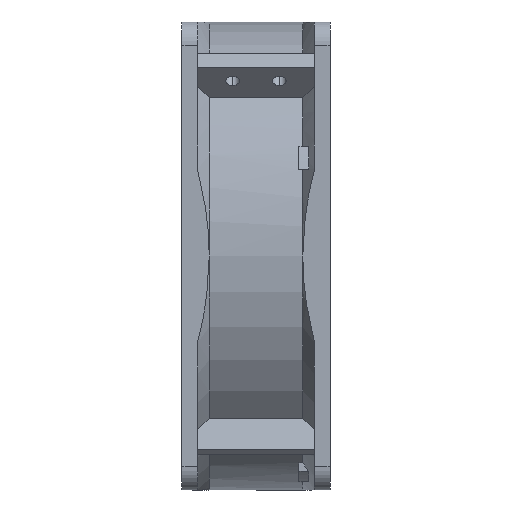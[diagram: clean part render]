
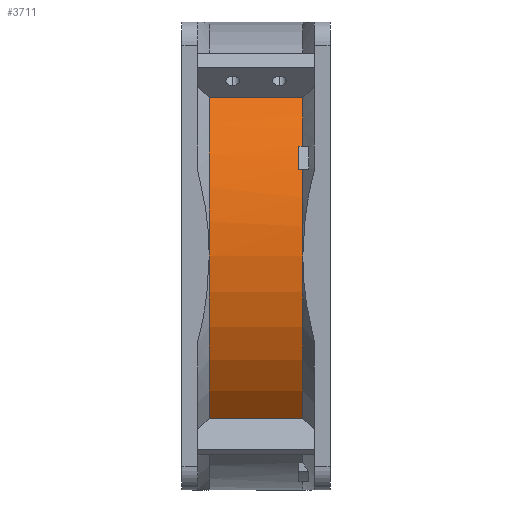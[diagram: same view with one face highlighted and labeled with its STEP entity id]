
A CAD part, left-side view. The second image highlights one B-rep face of the part: STEP entity #3711.
In plain terms, the highlighted cylindrical face has radius 60 mm (diameter 120 mm), a partial arc.
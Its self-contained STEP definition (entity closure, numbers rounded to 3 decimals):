
#95 = CARTESIAN_POINT ( 'NONE',  ( 0., 12., 0. ) ) ;
#128 = VERTEX_POINT ( 'NONE', #5200 ) ;
#167 = AXIS2_PLACEMENT_3D ( 'NONE', #545, #3971, #1053 ) ;
#169 = CARTESIAN_POINT ( 'NONE',  ( -55.738, -11.5, 22.21 ) ) ;
#350 = CIRCLE ( 'NONE', #617, 60. ) ;
#392 = VERTEX_POINT ( 'NONE', #5096 ) ;
#399 = VERTEX_POINT ( 'NONE', #4609 ) ;
#410 = EDGE_CURVE ( 'NONE', #576, #392, #5312, .T. ) ;
#429 = VERTEX_POINT ( 'NONE', #744 ) ;
#545 = CARTESIAN_POINT ( 'NONE',  ( 0., -11., 0. ) ) ;
#576 = VERTEX_POINT ( 'NONE', #3053 ) ;
#594 = DIRECTION ( 'NONE',  ( 0., 0., -1. ) ) ;
#608 = EDGE_CURVE ( 'NONE', #399, #5047, #4541, .T. ) ;
#614 = VERTEX_POINT ( 'NONE', #1661 ) ;
#617 = AXIS2_PLACEMENT_3D ( 'NONE', #852, #4260, #1339 ) ;
#672 = DIRECTION ( 'NONE',  ( 0., 1., 0. ) ) ;
#705 = AXIS2_PLACEMENT_3D ( 'NONE', #2482, #1543, #4943 ) ;
#744 = CARTESIAN_POINT ( 'NONE',  ( -60., 12., 0. ) ) ;
#852 = CARTESIAN_POINT ( 'NONE',  ( 0., -12., 0. ) ) ;
#1053 = DIRECTION ( 'NONE',  ( 0., 0., -1. ) ) ;
#1061 = ORIENTED_EDGE ( 'NONE', *, *, #3314, .F. ) ;
#1087 = ORIENTED_EDGE ( 'NONE', *, *, #3434, .F. ) ;
#1157 = AXIS2_PLACEMENT_3D ( 'NONE', #95, #3515, #594 ) ;
#1188 = CIRCLE ( 'NONE', #2172, 60. ) ;
#1233 = DIRECTION ( 'NONE',  ( 0., -1., 0. ) ) ;
#1339 = DIRECTION ( 'NONE',  ( 0., 0., -1. ) ) ;
#1345 = LINE ( 'NONE', #4957, #3781 ) ;
#1543 = DIRECTION ( 'NONE',  ( 0., -1., 0. ) ) ;
#1586 = CYLINDRICAL_SURFACE ( 'NONE', #705, 60. ) ;
#1661 = CARTESIAN_POINT ( 'NONE',  ( -53.032, -12., 28.065 ) ) ;
#1747 = FACE_OUTER_BOUND ( 'NONE', #5213, .T. ) ;
#1913 = CARTESIAN_POINT ( 'NONE',  ( -44.157, 12., 40.622 ) ) ;
#1988 = ORIENTED_EDGE ( 'NONE', *, *, #3912, .F. ) ;
#2018 = CARTESIAN_POINT ( 'NONE',  ( 0., 12., 0. ) ) ;
#2090 = EDGE_CURVE ( 'NONE', #3091, #5306, #1345, .T. ) ;
#2172 = AXIS2_PLACEMENT_3D ( 'NONE', #2018, #5424, #2498 ) ;
#2270 = CARTESIAN_POINT ( 'NONE',  ( -53.032, -11.5, 28.065 ) ) ;
#2362 = VERTEX_POINT ( 'NONE', #5283 ) ;
#2418 = ORIENTED_EDGE ( 'NONE', *, *, #608, .T. ) ;
#2482 = CARTESIAN_POINT ( 'NONE',  ( 0., 0., 0. ) ) ;
#2498 = DIRECTION ( 'NONE',  ( 0., 0., -1. ) ) ;
#2513 = DIRECTION ( 'NONE',  ( 0., 1., 0. ) ) ;
#2602 = ORIENTED_EDGE ( 'NONE', *, *, #5932, .T. ) ;
#2695 = VECTOR ( 'NONE', #3220, 1000. ) ;
#2716 = VECTOR ( 'NONE', #6096, 1000. ) ;
#2839 = DIRECTION ( 'NONE',  ( 0., -1., 0. ) ) ;
#2912 = AXIS2_PLACEMENT_3D ( 'NONE', #5765, #2839, #6250 ) ;
#2962 = ORIENTED_EDGE ( 'NONE', *, *, #4576, .T. ) ;
#3053 = CARTESIAN_POINT ( 'NONE',  ( -43.128, -12., -41.713 ) ) ;
#3091 = VERTEX_POINT ( 'NONE', #5585 ) ;
#3220 = DIRECTION ( 'NONE',  ( 0., -1., 0. ) ) ;
#3232 = EDGE_CURVE ( 'NONE', #3091, #614, #350, .T. ) ;
#3314 = EDGE_CURVE ( 'NONE', #128, #576, #3474, .T. ) ;
#3400 = VECTOR ( 'NONE', #672, 1000. ) ;
#3434 = EDGE_CURVE ( 'NONE', #2362, #5047, #4007, .T. ) ;
#3474 = CIRCLE ( 'NONE', #2912, 60. ) ;
#3482 = EDGE_CURVE ( 'NONE', #5306, #429, #5310, .T. ) ;
#3515 = DIRECTION ( 'NONE',  ( 0., -1., 0. ) ) ;
#3711 = ADVANCED_FACE ( 'NONE', ( #1747 ), #1586, .T. ) ;
#3781 = VECTOR ( 'NONE', #2513, 1000. ) ;
#3912 = EDGE_CURVE ( 'NONE', #399, #128, #4251, .T. ) ;
#3971 = DIRECTION ( 'NONE',  ( 0., -1., 0. ) ) ;
#4007 = CIRCLE ( 'NONE', #167, 60. ) ;
#4146 = CARTESIAN_POINT ( 'NONE',  ( -55.738, -11., 22.21 ) ) ;
#4148 = LINE ( 'NONE', #2270, #2695 ) ;
#4152 = CARTESIAN_POINT ( 'NONE',  ( 0., -12., 0. ) ) ;
#4251 = CIRCLE ( 'NONE', #4958, 60. ) ;
#4260 = DIRECTION ( 'NONE',  ( 0., -1., 0. ) ) ;
#4469 = ORIENTED_EDGE ( 'NONE', *, *, #3232, .F. ) ;
#4534 = ORIENTED_EDGE ( 'NONE', *, *, #410, .F. ) ;
#4541 = LINE ( 'NONE', #169, #3400 ) ;
#4554 = ORIENTED_EDGE ( 'NONE', *, *, #3482, .T. ) ;
#4576 = EDGE_CURVE ( 'NONE', #429, #392, #1188, .T. ) ;
#4609 = CARTESIAN_POINT ( 'NONE',  ( -55.738, -12., 22.21 ) ) ;
#4640 = DIRECTION ( 'NONE',  ( 0., 0., -1. ) ) ;
#4943 = DIRECTION ( 'NONE',  ( 0., 0., -1. ) ) ;
#4957 = CARTESIAN_POINT ( 'NONE',  ( -44.157, -19.001, 40.622 ) ) ;
#4958 = AXIS2_PLACEMENT_3D ( 'NONE', #4152, #1233, #4640 ) ;
#5047 = VERTEX_POINT ( 'NONE', #4146 ) ;
#5096 = CARTESIAN_POINT ( 'NONE',  ( -43.128, 12., -41.713 ) ) ;
#5200 = CARTESIAN_POINT ( 'NONE',  ( -60., -12., 0. ) ) ;
#5213 = EDGE_LOOP ( 'NONE', ( #1988, #2418, #1087, #2602, #4469, #5904, #4554, #2962, #4534, #1061 ) ) ;
#5283 = CARTESIAN_POINT ( 'NONE',  ( -53.032, -11., 28.065 ) ) ;
#5306 = VERTEX_POINT ( 'NONE', #1913 ) ;
#5310 = CIRCLE ( 'NONE', #1157, 60. ) ;
#5312 = LINE ( 'NONE', #5607, #2716 ) ;
#5424 = DIRECTION ( 'NONE',  ( 0., -1., 0. ) ) ;
#5585 = CARTESIAN_POINT ( 'NONE',  ( -44.157, -12., 40.622 ) ) ;
#5607 = CARTESIAN_POINT ( 'NONE',  ( -43.128, -19.001, -41.713 ) ) ;
#5765 = CARTESIAN_POINT ( 'NONE',  ( 0., -12., 0. ) ) ;
#5904 = ORIENTED_EDGE ( 'NONE', *, *, #2090, .T. ) ;
#5932 = EDGE_CURVE ( 'NONE', #2362, #614, #4148, .T. ) ;
#6096 = DIRECTION ( 'NONE',  ( 0., 1., 0. ) ) ;
#6250 = DIRECTION ( 'NONE',  ( 0., 0., -1. ) ) ;
